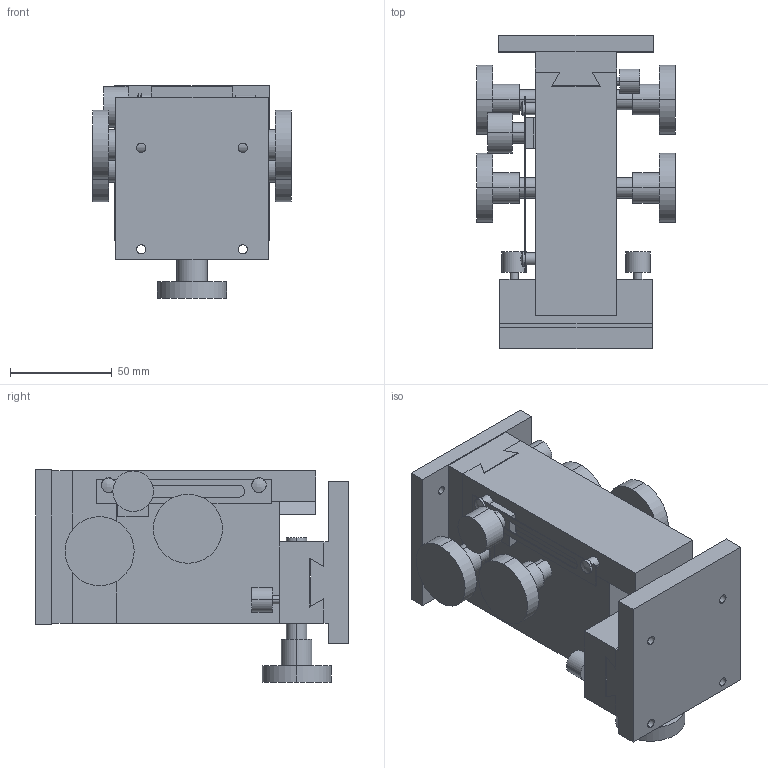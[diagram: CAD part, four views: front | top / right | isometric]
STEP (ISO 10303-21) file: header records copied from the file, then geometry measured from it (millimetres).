
FILE_DESCRIPTION (( 'STEP AP203' ), '1' );
FILE_NAME ('LT-214-1.STEP', '2008-04-02T01:28:23', ( '' ), ( '' ), 'SwSTEP 2.0', 'SolidWorks 2007', '' );
FILE_SCHEMA (( 'CONFIG_CONTROL_DESIGN' ));
Length unit declared in the file: millimetre
Products named in the file (5): LT-214-1-1_蹬怮椔; LT-214-1; LT-214-1-2_蹬怮椔; LT-214-1-3_蹬怮椔; LT-214-1-4_蹬怮椔
Assembly tree (4 placements, depth 2):
  LT-214-1
    LT-214-1-2_蹬怮椔
    LT-214-1-1_蹬怮椔
    LT-214-1-3_蹬怮椔
    LT-214-1-4_蹬怮椔
Bounding box: 98 x 154 x 104.5 mm (x, y, z)
Volume: 577525 mm3; surface area: 125905 mm2
Topology: 6 solids, 17 shells, 340 faces, 743 edges, 494 vertices
Faces by surface type: cylinder 171, plane 161, cone 6, bspline 2
Entity records: 10412 total; most frequent: CARTESIAN_POINT 2034, DIRECTION 1761, ORIENTED_EDGE 1486, EDGE_CURVE 743, AXIS2_PLACEMENT_3D 689, VERTEX_POINT 494, EDGE_LOOP 433, VECTOR 383
